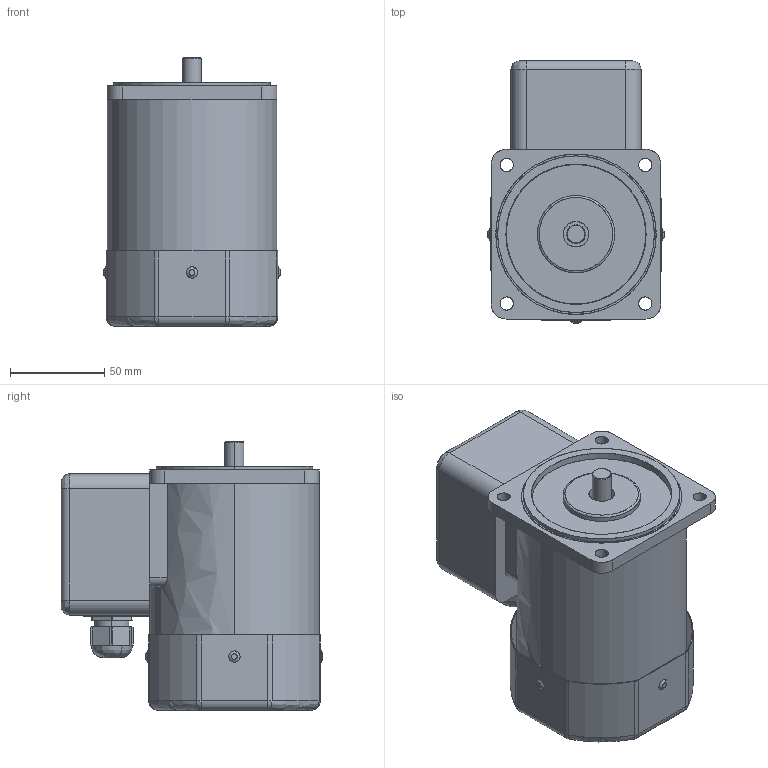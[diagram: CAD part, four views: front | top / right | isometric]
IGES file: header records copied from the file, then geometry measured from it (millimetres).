
Start section: SolidWorks IGES file using analytic representation for surfaces
Bounding box: 94 x 139 x 142.5 mm (x, y, z)
Surface area: 115962.5 mm2 (no closed solid volume)
Topology: 0 solids, 0 shells, 208 faces, 3007 edges, 2999 vertices
Faces by surface type: bspline 112, revolution 96
